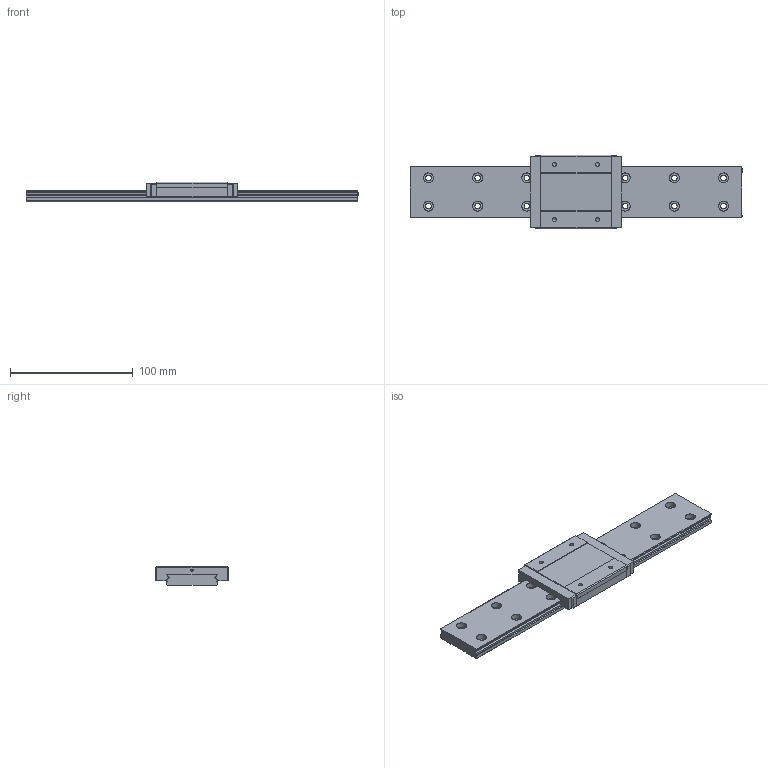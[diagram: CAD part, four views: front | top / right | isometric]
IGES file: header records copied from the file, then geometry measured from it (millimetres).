
Global section: file name: No Iges File Name specified; native system: AutoDesk Inventor R11.0; preprocessor: AutoDesk Inventor Iges Exporter R11.0; author: No Author specified; organization: No Organization specified; date: 20150221.131917; units: millimetre
Bounding box: 270 x 60 x 16 mm (x, y, z)
Surface area: 44451.2 mm2 (no closed solid volume)
Topology: 0 solids, 0 shells, 176 faces, 1304 edges, 1296 vertices
Faces by surface type: bspline 176
